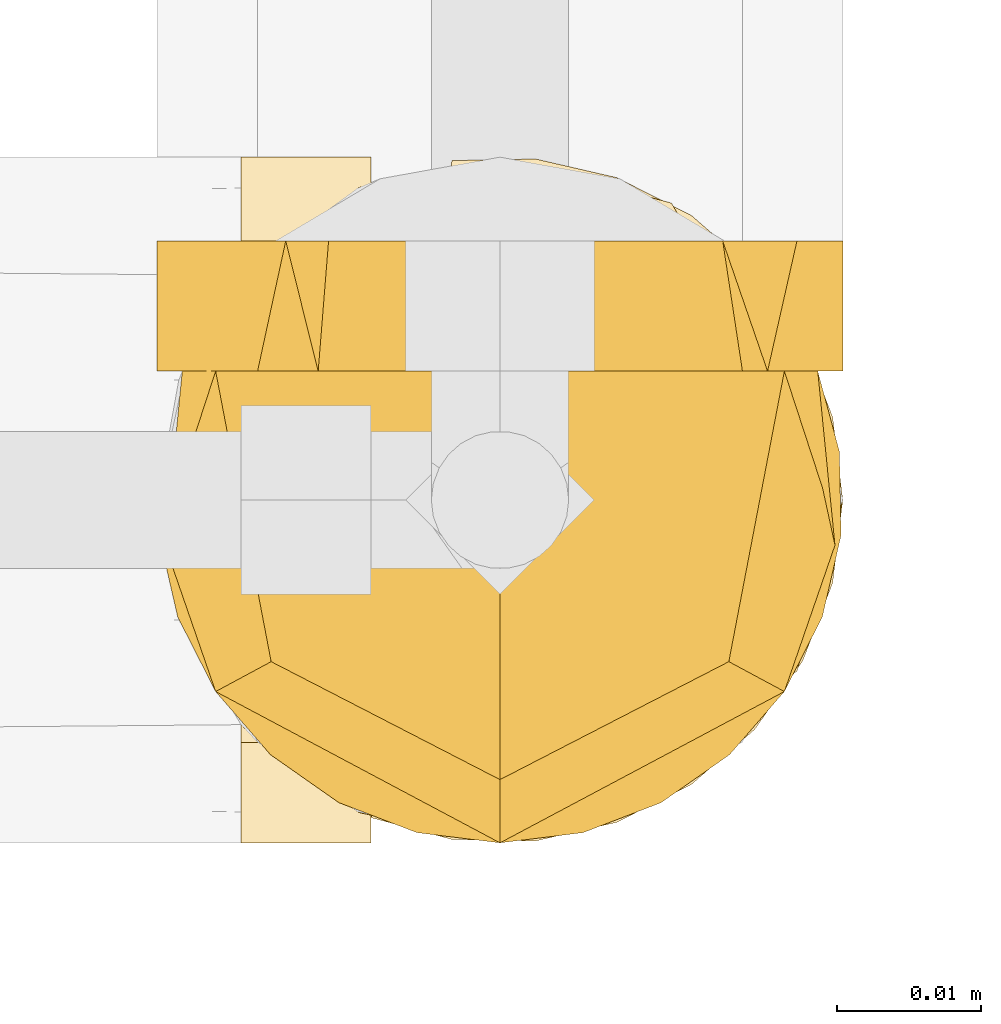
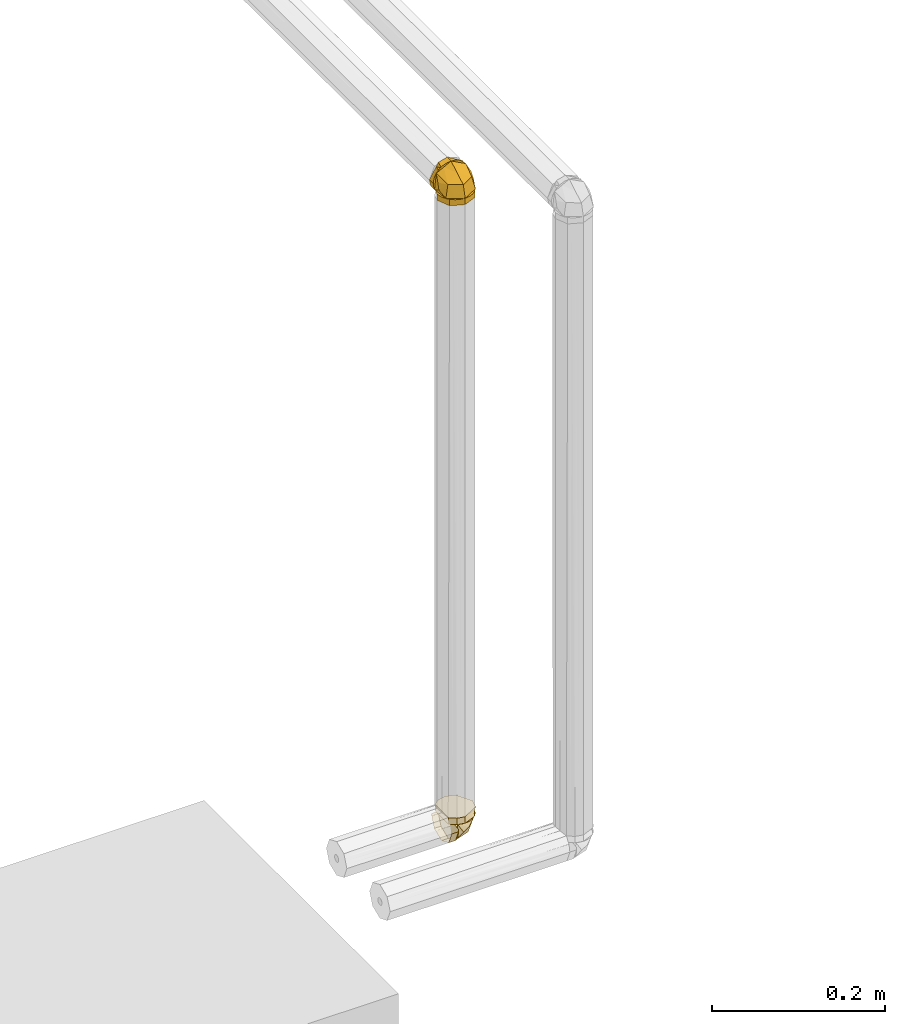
# One storey, part 385 of 652: 2 coverings.
"""IFC2X3 building model written with IfcOpenShell, lengths in millimetres."""

from ifc_helpers import new_model, entity, si_unit, converted_unit, direction, frame, origin, place, context, subcontext, project, spatial, face_set, surface_model, material, type_object, element, save


model = new_model("IFC2X3")

# Units and contexts
model_context = context("Model", 3, precision=0.01, world=frame((0.0, 0.0, 308426.39999999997)), true_north=direction((6.123233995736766e-17, 1.0)))
plan_context = context("Plan", 3, precision=0.01, world=frame((0.0, 0.0, 308426.39999999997)), true_north=direction((6.123233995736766e-17, 1.0)))
body_context = subcontext(model_context, "Body", "Model", "MODEL_VIEW")
ifc_project = project(units=[si_unit("LENGTHUNIT", "METRE", prefix="MILLI"), si_unit("AREAUNIT", "SQUARE_METRE"), si_unit("VOLUMEUNIT", "CUBIC_METRE"), converted_unit("PLANEANGLEUNIT", "DEGREE", entity("IfcPlaneAngleMeasure", 0.017453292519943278), si_unit("PLANEANGLEUNIT", "RADIAN"), dimensions=[0, 0, 0, 0, 0, 0, 0])], contexts=[model_context, plan_context])

# Site, building, storey
site_placement = place(None, origin())
site = spatial("IfcSite", under=ifc_project, at=site_placement, Name="Default", CompositionType="ELEMENT")
building_placement = place(site_placement, origin())
building = spatial("IfcBuilding", under=site, at=building_placement, CompositionType="ELEMENT")
storey_placement = place(building_placement, frame((0.0, 0.0, 1730.6999999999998)))
storey = spatial("IfcBuildingStorey", under=building, at=storey_placement, Name="EG_Produktion_FFB", CompositionType="ELEMENT", Elevation=1730.6999999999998)

# Coverings
ifc_material = material(Name="Dämmung - Armaflex-Schlauch")
covering_type = type_object("IfcCoveringType", Name="Rohrdämmung außen:Armaflex-Schlauch", PredefinedType="INSULATION")
covering_1_placement = place(storey_placement, frame((55312.92351223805, 61944.67878550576, 2674.642227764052)))
element("IfcCovering", 1, at=covering_1_placement, inside=storey, type_object=covering_type, material=ifc_material, Name="Rohrdämmung außen:Armaflex-Schlauch", ObjectType="Rohrdämmung außen:Armaflex-Schlauch", PredefinedType="INSULATION", context=body_context, shape_type="SurfaceModel", body=[
    surface_model("IfcFaceBasedSurfaceModel", [(10.458420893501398, 47.37827577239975, 34.288272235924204), (10.458420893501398, 48.88520354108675, 28.691896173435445), (10.458420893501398, 48.99253247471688, 22.89717988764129), (10.458420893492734, 47.69387779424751, 17.248839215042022), (10.458420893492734, 45.066493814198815, 12.082882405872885), (10.458420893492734, 41.266678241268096, 7.706621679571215), (10.458420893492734, 36.520474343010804, 4.38039184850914), (10.458420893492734, 31.110224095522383, 2.3020635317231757), (10.458420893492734, 25.357772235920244, 1.595272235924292), (10.458420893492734, 19.605320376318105, 2.3020635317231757), (10.458420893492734, 14.195070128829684, 4.38039184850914), (10.458420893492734, 9.44886623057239, 7.706621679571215), (10.458420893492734, 5.649050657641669, 12.082882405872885), (10.458420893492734, 3.0216666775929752, 17.248839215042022), (10.458420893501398, 1.7230119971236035, 22.89717988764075), (10.458420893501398, 1.8303409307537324, 28.691896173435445), (10.458420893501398, 3.3372686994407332, 34.288272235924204), (16.054796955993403, 1.8303409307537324, 34.28827223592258), (21.849513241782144, 1.7230119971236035, 34.28827223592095), (27.4978539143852, 3.0216666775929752, 34.28827223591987), (32.6638107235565, 5.649050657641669, 34.28827223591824), (37.040071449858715, 9.44886623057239, 34.28827223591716), (40.36630128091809, 14.195070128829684, 34.28827223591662), (42.44462959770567, 19.605320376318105, 34.288272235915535), (43.151420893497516, 25.357772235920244, 34.288272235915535), (42.44462959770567, 31.110224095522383, 34.288272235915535), (40.36630128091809, 36.520474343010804, 34.28827223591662), (37.04007144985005, 41.266678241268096, 34.28827223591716), (32.6638107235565, 45.066493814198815, 34.28827223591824), (27.4978539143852, 47.69387779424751, 34.28827223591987), (21.849513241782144, 48.99253247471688, 34.28827223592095), (16.054796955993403, 48.88520354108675, 34.28827223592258), (25.363816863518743, 47.718663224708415, 26.166056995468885), (27.879942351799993, 41.216734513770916, 14.151674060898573), (21.433824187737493, 46.23503285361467, 34.28823564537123), (10.45774996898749, 35.09617787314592, 6.77828691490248), (26.805589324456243, 25.357237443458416, 5.975428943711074), (37.907237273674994, 35.21244984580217, 34.28823564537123), (35.605052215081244, 25.357237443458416, 21.22013795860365), (17.53638766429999, 48.57442494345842, 22.222983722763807), (10.45774996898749, 46.22108021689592, 23.18571565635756), (25.363816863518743, 3.000462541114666, 26.166056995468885), (17.53638766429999, 2.140049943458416, 22.222983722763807), (27.879942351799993, 9.497740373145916, 14.151674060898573), (10.45774996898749, 15.618297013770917, 6.77828691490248), (21.433824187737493, 4.479442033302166, 34.28823564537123), (37.96769869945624, 15.618297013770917, 34.28823564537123), (34.977183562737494, 25.357237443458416, 20.13183229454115), (10.45774996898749, 4.493394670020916, 23.18571565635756), (1.4396957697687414, 49.11857777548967, 25.35767610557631), (10.45774996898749, 49.11857777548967, 25.35767610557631), (10.45774996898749, 42.160862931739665, 8.555213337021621), (1.4396957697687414, 42.160862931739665, 8.555213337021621), (10.45774996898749, 25.357237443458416, 1.5951730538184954), (1.4396957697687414, 25.357237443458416, 1.5951730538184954), (10.45774996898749, 8.553611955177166, 8.555213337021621), (1.4396957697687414, 8.553611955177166, 8.555213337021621), (10.45774996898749, 1.5958971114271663, 25.35767610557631), (1.4396957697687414, 1.5958971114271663, 25.35767610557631), (24.53365305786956, 4.565584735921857, 43.3080222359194), (29.67838522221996, 7.5358972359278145, 43.308022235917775), (34.82311738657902, 10.50620973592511, 43.30802223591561), (39.967849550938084, 13.476522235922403, 43.30802223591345), (41.55963522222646, 19.417147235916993, 43.30802223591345), (43.15142089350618, 25.357772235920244, 43.30802223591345), (40.181108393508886, 30.502504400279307, 43.30802223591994), (37.210795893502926, 35.6472365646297, 43.308022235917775), (34.240483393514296, 40.791968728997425, 43.30802223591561), (31.27017089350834, 45.936700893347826, 43.30802223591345), (25.32954589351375, 47.528486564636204, 43.30802223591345), (19.388920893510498, 49.12027223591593, 43.30802223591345), (14.510241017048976, 48.07242355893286, 43.308022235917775), (9.631561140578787, 47.024574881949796, 43.30802223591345), (5.6134166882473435, 44.06585567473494, 43.30802223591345), (1.5952722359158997, 41.10713646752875, 43.30802223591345), (1.5952722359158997, 9.608408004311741, 43.30802223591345), (5.6134166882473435, 6.649688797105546, 43.308022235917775), (9.631561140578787, 3.690969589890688, 43.30802223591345), (14.510241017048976, 2.643120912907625, 43.30802223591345), (19.388920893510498, 1.5952722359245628, 43.30802223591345), (36.19154578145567, 8.55514734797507, 34.2882722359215), (31.990889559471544, 6.81517856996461, 34.2882722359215), (27.790233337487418, 5.075209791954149, 34.2882722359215), (23.58957711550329, 3.335241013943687, 34.28827223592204), (19.388920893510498, 1.5952722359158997, 34.2882722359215), (14.510241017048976, 2.643120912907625, 34.2882722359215), (9.631561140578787, 3.690969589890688, 34.2882722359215), (5.5047975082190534, 6.729669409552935, 34.2882722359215), (1.5952722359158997, 9.608408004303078, 34.2882722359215), (1.5952722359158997, 41.10713646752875, 34.2882722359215), (5.6134166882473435, 44.06585567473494, 34.2882722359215), (9.631561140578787, 47.024574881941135, 34.2882722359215), (14.642122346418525, 48.10074918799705, 34.2882722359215), (19.388920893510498, 49.12027223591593, 34.2882722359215), (23.589577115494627, 47.3803034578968, 34.2882722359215), (27.790233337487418, 45.64033467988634, 34.2882722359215), (31.990889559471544, 43.90036590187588, 34.2882722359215), (36.19154578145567, 42.160397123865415, 34.2882722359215), (37.93151455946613, 37.95974090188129, 34.2882722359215), (39.671483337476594, 33.759084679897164, 34.2882722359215), (41.41145211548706, 29.55842845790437, 34.2882722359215), (43.15142089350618, 25.357772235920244, 34.2882722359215), (41.41145211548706, 21.157116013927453, 34.2882722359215), (39.671483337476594, 16.956459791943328, 34.2882722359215), (37.9315145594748, 12.755803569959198, 34.2882722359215)], [face_set([[[0, 1, 2, 3, 4, 5, 6, 7, 8, 9, 10, 11, 12, 13, 14, 15]], [[16, 17, 18, 19, 20, 21, 22, 23, 24, 25, 26, 27, 28, 29, 30, 31]], [[32, 28, 33]], [[32, 34, 28]], [[33, 35, 4]], [[35, 33, 36]], [[36, 8, 35]], [[33, 37, 38]], [[39, 4, 40]], [[32, 33, 39]], [[34, 32, 0]], [[4, 39, 33]], [[38, 36, 33]], [[0, 32, 39]], [[33, 28, 37]], [[37, 24, 38]], [[0, 39, 40]], [[41, 16, 42]], [[43, 44, 36]], [[20, 45, 41]], [[46, 43, 47]], [[44, 8, 36]], [[12, 43, 42]], [[44, 43, 12]], [[42, 16, 48]], [[20, 43, 46]], [[16, 41, 45]], [[43, 41, 42]], [[43, 36, 47]], [[47, 24, 46]], [[20, 41, 43]], [[48, 12, 42]]]), face_set([[[49, 50, 51, 52]], [[53, 54, 52, 51]], [[54, 53, 55, 56]], [[57, 58, 56, 55]]]), face_set([[[59, 60, 61, 62, 63, 64, 65, 66, 67, 68, 69, 70, 71, 72, 73, 74, 75, 76, 77, 78, 79]], [[80, 81, 82, 83, 84, 85, 86, 87, 88, 89, 90, 91, 92, 93, 94, 95, 96, 97, 98, 99, 100, 101, 102, 103, 104]], [[75, 74, 89, 88]], [[71, 70, 93, 92, 91, 72]], [[73, 72, 91, 90, 89, 74]], [[96, 67, 97]], [[64, 100, 65]], [[100, 99, 65]], [[69, 95, 94]], [[94, 93, 70]], [[67, 96, 68]], [[66, 99, 98]], [[64, 101, 100]], [[99, 66, 65]], [[70, 69, 94]], [[98, 97, 67]], [[96, 95, 68]], [[69, 68, 95]], [[66, 98, 67]], [[104, 61, 80]], [[79, 83, 59]], [[83, 82, 59]], [[63, 103, 102]], [[102, 101, 64]], [[61, 104, 62]], [[60, 82, 81]], [[79, 84, 83]], [[82, 60, 59]], [[64, 63, 102]], [[81, 80, 61]], [[104, 103, 62]], [[63, 62, 103]], [[60, 81, 61]], [[76, 75, 88, 87, 86, 77]], [[78, 77, 86, 85, 84, 79]]])]),
])
covering_2_placement = place(storey_placement, frame((55306.954660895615, 61944.67878550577, 3580.6110791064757)))
element("IfcCovering", 2, at=covering_2_placement, inside=storey, type_object=covering_type, material=ifc_material, Name="Rohrdämmung außen:Armaflex-Schlauch", ObjectType="Rohrdämmung außen:Armaflex-Schlauch", PredefinedType="INSULATION", context=body_context, shape_type="SurfaceModel", body=[
    surface_model("IfcFaceBasedSurfaceModel", [(47.37827577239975, 34.28827223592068, 10.458420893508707), (48.88520354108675, 28.691896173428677, 10.458420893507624), (48.99253247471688, 22.897179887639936, 10.458420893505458), (47.69387779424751, 17.248839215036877, 10.458420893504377), (45.066493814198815, 12.082882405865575, 10.458420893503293), (41.266678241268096, 7.706621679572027, 10.45842089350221), (36.520474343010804, 4.380391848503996, 10.458420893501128), (31.110224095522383, 2.3020635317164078, 10.458420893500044), (25.357772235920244, 1.5952722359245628, 10.458420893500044), (19.605320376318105, 2.3020635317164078, 10.458420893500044), (14.195070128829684, 4.380391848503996, 10.458420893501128), (9.44886623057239, 7.706621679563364, 10.45842089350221), (5.649050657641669, 12.082882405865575, 10.458420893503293), (3.0216666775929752, 17.248839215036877, 10.458420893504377), (1.7230119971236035, 22.897179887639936, 10.458420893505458), (1.8303409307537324, 28.691896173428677, 10.458420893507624), (3.3372686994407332, 34.28827223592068, 10.458420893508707), (48.88520354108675, 34.28827223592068, 16.054796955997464), (48.99253247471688, 34.28827223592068, 21.84951324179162), (47.69387779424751, 34.28827223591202, 27.497853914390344), (45.066493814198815, 34.28827223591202, 32.66381072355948), (41.266678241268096, 34.28827223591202, 37.04007144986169), (36.520474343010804, 34.28827223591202, 40.36630128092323), (31.110224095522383, 34.28827223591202, 42.444629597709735), (25.357772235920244, 34.28827223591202, 43.15142089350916), (19.605320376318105, 34.28827223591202, 42.444629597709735), (14.195070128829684, 34.28827223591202, 40.36630128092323), (9.44886623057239, 34.28827223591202, 37.04007144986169), (5.649050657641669, 34.28827223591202, 32.663810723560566), (3.0216666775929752, 34.28827223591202, 27.497853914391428), (1.7230119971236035, 34.28827223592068, 21.84951324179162), (1.8303409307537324, 34.28827223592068, 16.054796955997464), (47.717714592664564, 26.166490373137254, 25.365501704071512), (41.215785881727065, 14.153270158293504, 27.87930175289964), (46.23408422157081, 34.286924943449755, 21.432020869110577), (35.099880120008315, 6.776976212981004, 10.4582720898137), (25.35628881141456, 5.977025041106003, 26.80494872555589), (35.21150121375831, 34.286924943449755, 37.9077593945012), (25.35628881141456, 21.217955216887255, 35.606737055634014), (48.57347631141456, 22.222545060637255, 17.538653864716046), (46.22013158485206, 23.185276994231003, 10.4582720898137), (2.999513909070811, 26.166490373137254, 25.365501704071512), (2.139101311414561, 22.222545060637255, 17.538653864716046), (9.496791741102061, 14.153270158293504, 27.87930175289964), (15.617348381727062, 6.776976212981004, 10.4582720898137), (4.478493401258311, 34.286924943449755, 21.432020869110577), (15.617348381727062, 34.286924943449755, 37.96880218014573), (25.35628881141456, 20.129649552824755, 34.97828704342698), (4.492446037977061, 23.185276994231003, 10.4582720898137), (49.122280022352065, 25.357237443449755, 1.4384738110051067), (49.122280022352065, 25.357237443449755, 10.4582720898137), (42.159914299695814, 8.553611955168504, 10.4582720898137), (42.159914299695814, 8.553611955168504, 1.4384738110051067), (25.35628881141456, 1.5958971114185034, 10.4582720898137), (25.35628881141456, 1.5958971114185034, 1.4384738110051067), (8.557314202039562, 8.553611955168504, 10.4582720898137), (8.557314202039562, 8.553611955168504, 1.4384738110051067), (1.5949484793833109, 25.357237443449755, 10.4582720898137), (1.5949484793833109, 25.357237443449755, 1.4384738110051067), (4.565584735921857, 43.30802223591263, 24.533653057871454), (7.5358972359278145, 43.30802223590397, 29.678385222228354), (10.50620973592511, 43.30802223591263, 34.823117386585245), (13.476522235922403, 43.30802223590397, 39.96784955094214), (19.417147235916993, 43.30802223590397, 41.55963522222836), (25.357772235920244, 43.30802223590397, 43.151420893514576), (30.502504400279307, 43.30802223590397, 40.18110839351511), (35.6472365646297, 43.30802223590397, 37.21079589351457), (40.791968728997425, 43.30802223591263, 34.240483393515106), (45.936700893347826, 43.30802223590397, 31.270170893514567), (47.528486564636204, 43.30802223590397, 25.329545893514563), (49.12027223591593, 43.30802223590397, 19.38892089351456), (48.07242355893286, 43.30802223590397, 14.510241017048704), (47.024574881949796, 43.30802223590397, 9.631561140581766), (44.06585567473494, 43.30802223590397, 5.613416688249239), (41.10713646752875, 43.30802223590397, 1.595272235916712), (9.608408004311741, 43.30802223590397, 1.595272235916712), (6.649688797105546, 43.30802223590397, 5.613416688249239), (3.690969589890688, 43.30802223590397, 9.631561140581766), (2.643120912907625, 43.30802223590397, 14.510241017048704), (1.5952722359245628, 43.30802223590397, 19.38892089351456), (8.55514734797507, 34.28827223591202, 36.19154578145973), (6.81517856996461, 34.28827223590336, 31.99088955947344), (5.075209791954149, 34.28827223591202, 27.790233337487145), (3.335241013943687, 34.28827223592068, 23.589577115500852), (1.5952722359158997, 34.28827223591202, 19.38892089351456), (2.643120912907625, 34.28827223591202, 14.510241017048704), (3.690969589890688, 34.28827223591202, 9.631561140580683), (6.729669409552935, 34.28827223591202, 5.504797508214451), (9.608408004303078, 34.28827223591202, 1.595272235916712), (41.10713646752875, 34.28827223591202, 1.595272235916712), (44.06585567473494, 34.28827223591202, 5.613416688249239), (47.024574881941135, 34.28827223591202, 9.631561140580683), (48.10074918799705, 34.28827223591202, 14.64212234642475), (49.12027223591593, 34.28827223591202, 19.38892089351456), (47.38030345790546, 34.28827223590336, 23.589577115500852), (45.64033467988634, 34.28827223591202, 27.790233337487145), (43.90036590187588, 34.28827223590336, 31.99088955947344), (42.160397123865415, 34.28827223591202, 36.19154578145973), (37.95974090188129, 34.28827223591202, 37.93151455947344), (33.759084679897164, 34.28827223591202, 39.67148333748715), (29.55842845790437, 34.28827223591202, 41.411452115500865), (25.357772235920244, 34.28827223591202, 43.151420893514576), (21.157116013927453, 34.28827223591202, 41.411452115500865), (16.956459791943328, 34.28827223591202, 39.67148333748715), (12.755803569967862, 34.28827223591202, 37.93151455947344)], [face_set([[[0, 1, 2, 3, 4, 5, 6, 7, 8, 9, 10, 11, 12, 13, 14, 15]], [[16, 17, 18, 19, 20, 21, 22, 23, 24, 25, 26, 27, 28, 29, 30, 31]], [[32, 20, 33]], [[32, 34, 20]], [[33, 35, 4]], [[35, 33, 36]], [[36, 8, 35]], [[33, 37, 38]], [[39, 4, 40]], [[32, 33, 39]], [[34, 32, 0]], [[4, 39, 33]], [[38, 36, 33]], [[0, 32, 39]], [[33, 20, 37]], [[37, 24, 38]], [[0, 39, 40]], [[41, 16, 42]], [[43, 44, 36]], [[28, 45, 41]], [[46, 43, 47]], [[44, 8, 36]], [[12, 43, 42]], [[44, 43, 12]], [[42, 16, 48]], [[28, 43, 46]], [[16, 41, 45]], [[43, 41, 42]], [[43, 36, 47]], [[47, 24, 46]], [[28, 41, 43]], [[48, 12, 42]]]), face_set([[[49, 50, 51, 52]], [[53, 54, 52, 51]], [[54, 53, 55, 56]], [[57, 58, 56, 55]]]), face_set([[[59, 60, 61, 62, 63, 64, 65, 66, 67, 68, 69, 70, 71, 72, 73, 74, 75, 76, 77, 78, 79]], [[80, 81, 82, 83, 84, 85, 86, 87, 88, 89, 90, 91, 92, 93, 94, 95, 96, 97, 98, 99, 100, 101, 102, 103, 104]], [[75, 74, 89, 88]], [[71, 70, 93, 92, 91, 72]], [[73, 72, 91, 90, 89, 74]], [[96, 67, 97]], [[64, 100, 65]], [[100, 99, 65]], [[69, 95, 94]], [[94, 93, 70]], [[67, 96, 68]], [[66, 99, 98]], [[64, 101, 100]], [[99, 66, 65]], [[70, 69, 94]], [[98, 97, 67]], [[96, 95, 68]], [[69, 68, 95]], [[66, 98, 67]], [[104, 61, 80]], [[79, 83, 59]], [[83, 82, 59]], [[63, 103, 102]], [[102, 101, 64]], [[61, 104, 62]], [[60, 82, 81]], [[79, 84, 83]], [[82, 60, 59]], [[64, 63, 102]], [[81, 80, 61]], [[104, 103, 62]], [[63, 62, 103]], [[60, 81, 61]], [[76, 75, 88, 87, 86, 77]], [[78, 77, 86, 85, 84, 79]]])]),
])

save(model, "model.ifc")
